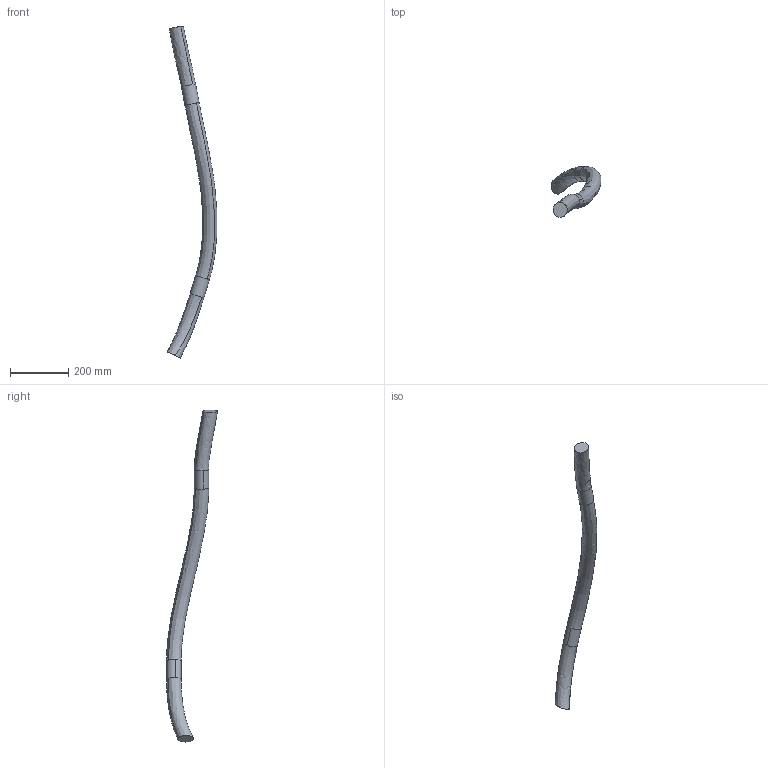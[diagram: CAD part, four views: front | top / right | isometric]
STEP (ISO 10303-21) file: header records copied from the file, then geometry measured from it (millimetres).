
FILE_DESCRIPTION (( 'STEP AP214' ), '1' );
FILE_NAME ('IRB6730-MH3_240kg-290_OC_00_LINK02_CABLE.step', '2026-05-26T09:34:43', ( '' ), ( '' ), 'SwSTEP 2.0', 'SolidWorks 2024', '' );
FILE_SCHEMA (( 'AUTOMOTIVE_DESIGN' ));
Length unit declared in the file: millimetre
Products named in the file (1): IRB6730-MH3_240kg-290_OC_00_LINK02_CABLE
Bounding box: 171.16 x 174.81 x 1139.51 mm (x, y, z)
Volume: 2302823 mm3; surface area: 188360.9 mm2
Topology: 1 solids, 1 shells, 12 faces, 30 edges, 20 vertices
Faces by surface type: bspline 6, cylinder 4, plane 2
Entity records: 2896 total; most frequent: CARTESIAN_POINT 2610, ORIENTED_EDGE 60, DIRECTION 50, EDGE_CURVE 30, AXIS2_PLACEMENT_3D 23, VERTEX_POINT 20, CIRCLE 16, ADVANCED_FACE 12
